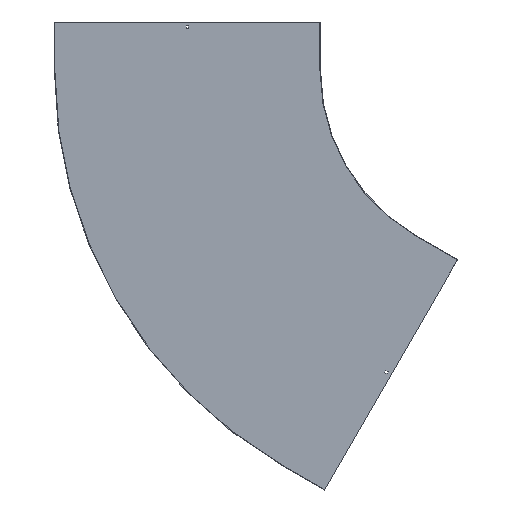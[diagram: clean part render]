
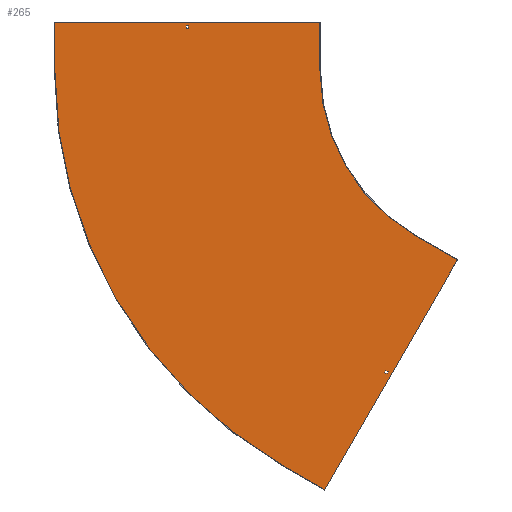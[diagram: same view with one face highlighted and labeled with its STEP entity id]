
A CAD part, front view. The second image highlights one B-rep face of the part: STEP entity #265.
In plain terms, the highlighted planar face has unit normal (0, -1, 0).
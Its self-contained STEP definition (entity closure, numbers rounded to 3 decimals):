
#2 = CARTESIAN_POINT ( 'NONE',  ( -575.096, -1.5, -1296.096 ) ) ;
#5 = DIRECTION ( 'NONE',  ( 0., 0., -1. ) ) ;
#19 = LINE ( 'NONE', #293, #61 ) ;
#24 = DIRECTION ( 'NONE',  ( -0.5, 0., -0.866 ) ) ;
#29 = CARTESIAN_POINT ( 'NONE',  ( -996.75, -1.5, 129. ) ) ;
#37 = LINE ( 'NONE', #696, #603 ) ;
#42 = LINE ( 'NONE', #580, #852 ) ;
#58 = CARTESIAN_POINT ( 'NONE',  ( -590., -1.5, 150. ) ) ;
#61 = VECTOR ( 'NONE', #804, 1000. ) ;
#62 = CIRCLE ( 'NONE', #189, 1410. ) ;
#63 = CIRCLE ( 'NONE', #340, 590. ) ;
#64 = VECTOR ( 'NONE', #150, 1000. ) ;
#67 = ORIENTED_EDGE ( 'NONE', *, *, #343, .F. ) ;
#73 = ORIENTED_EDGE ( 'NONE', *, *, #800, .F. ) ;
#81 = ORIENTED_EDGE ( 'NONE', *, *, #253, .F. ) ;
#83 = CARTESIAN_POINT ( 'NONE',  ( -501.625, -1.5, -868.84 ) ) ;
#104 = CARTESIAN_POINT ( 'NONE',  ( 119.512, -1.5, -69. ) ) ;
#106 = DIRECTION ( 'NONE',  ( 0., 0., -1. ) ) ;
#107 = EDGE_CURVE ( 'NONE', #627, #814, #63, .T. ) ;
#109 = AXIS2_PLACEMENT_3D ( 'NONE', #123, #392, #5 ) ;
#110 = VERTEX_POINT ( 'NONE', #770 ) ;
#113 = VECTOR ( 'NONE', #167, 1000. ) ;
#114 = EDGE_CURVE ( 'NONE', #581, #177, #845, .T. ) ;
#115 = EDGE_CURVE ( 'NONE', #158, #581, #42, .T. ) ;
#123 = CARTESIAN_POINT ( 'NONE',  ( 0., -1.5, 0. ) ) ;
#129 = DIRECTION ( 'NONE',  ( 0.866, 0., -0.5 ) ) ;
#135 = CARTESIAN_POINT ( 'NONE',  ( -575.096, -1.5, -1296.096 ) ) ;
#150 = DIRECTION ( 'NONE',  ( -0.866, 0., 0.5 ) ) ;
#158 = VERTEX_POINT ( 'NONE', #29 ) ;
#167 = DIRECTION ( 'NONE',  ( 0., 0., -1. ) ) ;
#172 = VERTEX_POINT ( 'NONE', #692 ) ;
#177 = VERTEX_POINT ( 'NONE', #379 ) ;
#178 = EDGE_CURVE ( 'NONE', #463, #110, #37, .T. ) ;
#187 = VERTEX_POINT ( 'NONE', #727 ) ;
#189 = AXIS2_PLACEMENT_3D ( 'NONE', #659, #850, #714 ) ;
#192 = VERTEX_POINT ( 'NONE', #854 ) ;
#198 = FACE_BOUND ( 'NONE', #274, .T. ) ;
#199 = EDGE_LOOP ( 'NONE', ( #73, #639, #268, #305, #440, #697, #844, #81 ) ) ;
#201 = FACE_BOUND ( 'NONE', #732, .T. ) ;
#205 = EDGE_CURVE ( 'NONE', #814, #172, #388, .T. ) ;
#207 = LINE ( 'NONE', #58, #721 ) ;
#214 = CARTESIAN_POINT ( 'NONE',  ( -590., -1.5, 0. ) ) ;
#234 = LINE ( 'NONE', #104, #254 ) ;
#253 = EDGE_CURVE ( 'NONE', #187, #627, #207, .T. ) ;
#254 = VECTOR ( 'NONE', #758, 1000. ) ;
#258 = ORIENTED_EDGE ( 'NONE', *, *, #851, .T. ) ;
#265 = ADVANCED_FACE ( 'NONE', ( #201, #595, #198 ), #457, .T. ) ;
#268 = ORIENTED_EDGE ( 'NONE', *, *, #735, .F. ) ;
#274 = EDGE_LOOP ( 'NONE', ( #258, #543, #353, #806 ) ) ;
#275 = LINE ( 'NONE', #2, #601 ) ;
#277 = LINE ( 'NONE', #83, #352 ) ;
#292 = CARTESIAN_POINT ( 'NONE',  ( -378.863, -1.5, -932.211 ) ) ;
#293 = CARTESIAN_POINT ( 'NONE',  ( 111.717, -1.5, -64.5 ) ) ;
#305 = ORIENTED_EDGE ( 'NONE', *, *, #730, .F. ) ;
#307 = CARTESIAN_POINT ( 'NONE',  ( -1410., -1.5, 0. ) ) ;
#309 = DIRECTION ( 'NONE',  ( 0., 0., 1. ) ) ;
#311 = VECTOR ( 'NONE', #334, 1000. ) ;
#312 = DIRECTION ( 'NONE',  ( 0., -1., 0. ) ) ;
#316 = ORIENTED_EDGE ( 'NONE', *, *, #857, .F. ) ;
#334 = DIRECTION ( 'NONE',  ( 1., 0., 0. ) ) ;
#340 = AXIS2_PLACEMENT_3D ( 'NONE', #450, #312, #106 ) ;
#343 = EDGE_CURVE ( 'NONE', #795, #752, #277, .T. ) ;
#351 = DIRECTION ( 'NONE',  ( 1., 0., 0. ) ) ;
#352 = VECTOR ( 'NONE', #354, 1000. ) ;
#353 = ORIENTED_EDGE ( 'NONE', *, *, #115, .T. ) ;
#354 = DIRECTION ( 'NONE',  ( 0.866, 0., -0.5 ) ) ;
#363 = EDGE_CURVE ( 'NONE', #192, #795, #19, .T. ) ;
#376 = CARTESIAN_POINT ( 'NONE',  ( -164.346, -1.5, -584.656 ) ) ;
#377 = CARTESIAN_POINT ( 'NONE',  ( -1003.25, -1.5, 0. ) ) ;
#379 = CARTESIAN_POINT ( 'NONE',  ( -1003.25, -1.5, 138. ) ) ;
#388 = LINE ( 'NONE', #847, #448 ) ;
#390 = CARTESIAN_POINT ( 'NONE',  ( -382.113, -1.5, -937.84 ) ) ;
#392 = DIRECTION ( 'NONE',  ( 0., -1., 0. ) ) ;
#403 = VECTOR ( 'NONE', #24, 1000. ) ;
#407 = VECTOR ( 'NONE', #570, 1000. ) ;
#412 = EDGE_CURVE ( 'NONE', #752, #862, #234, .T. ) ;
#440 = ORIENTED_EDGE ( 'NONE', *, *, #539, .F. ) ;
#448 = VECTOR ( 'NONE', #129, 1000. ) ;
#450 = CARTESIAN_POINT ( 'NONE',  ( 0., -1.5, 0. ) ) ;
#454 = CARTESIAN_POINT ( 'NONE',  ( -1411.5, -1.5, 150. ) ) ;
#457 = PLANE ( 'NONE',  #109 ) ;
#459 = CARTESIAN_POINT ( 'NONE',  ( -295., -1.5, -510.955 ) ) ;
#463 = VERTEX_POINT ( 'NONE', #307 ) ;
#465 = CARTESIAN_POINT ( 'NONE',  ( -389.908, -1.5, -933.34 ) ) ;
#486 = CARTESIAN_POINT ( 'NONE',  ( -498.375, -1.5, -863.211 ) ) ;
#494 = CARTESIAN_POINT ( 'NONE',  ( -1003.25, -1.5, 129. ) ) ;
#496 = LINE ( 'NONE', #759, #113 ) ;
#509 = CARTESIAN_POINT ( 'NONE',  ( -996.75, -1.5, 138. ) ) ;
#512 = VERTEX_POINT ( 'NONE', #509 ) ;
#522 = ORIENTED_EDGE ( 'NONE', *, *, #412, .F. ) ;
#539 = EDGE_CURVE ( 'NONE', #172, #767, #693, .T. ) ;
#543 = ORIENTED_EDGE ( 'NONE', *, *, #716, .T. ) ;
#555 = CARTESIAN_POINT ( 'NONE',  ( 0., -1.5, 138. ) ) ;
#570 = DIRECTION ( 'NONE',  ( 0., 0., 1. ) ) ;
#580 = CARTESIAN_POINT ( 'NONE',  ( 0., -1.5, 129. ) ) ;
#581 = VERTEX_POINT ( 'NONE', #494 ) ;
#595 = FACE_OUTER_BOUND ( 'NONE', #199, .T. ) ;
#601 = VECTOR ( 'NONE', #786, 1000. ) ;
#603 = VECTOR ( 'NONE', #309, 1000. ) ;
#627 = VERTEX_POINT ( 'NONE', #214 ) ;
#639 = ORIENTED_EDGE ( 'NONE', *, *, #178, .F. ) ;
#657 = LINE ( 'NONE', #454, #311 ) ;
#659 = CARTESIAN_POINT ( 'NONE',  ( 0., -1.5, 0. ) ) ;
#692 = CARTESIAN_POINT ( 'NONE',  ( -165.096, -1.5, -585.955 ) ) ;
#693 = LINE ( 'NONE', #376, #403 ) ;
#696 = CARTESIAN_POINT ( 'NONE',  ( -1410., -1.5, 0. ) ) ;
#697 = ORIENTED_EDGE ( 'NONE', *, *, #205, .F. ) ;
#703 = DIRECTION ( 'NONE',  ( -1., 0., 0. ) ) ;
#712 = DIRECTION ( 'NONE',  ( 0., 0., -1. ) ) ;
#714 = DIRECTION ( 'NONE',  ( 0., 0., -1. ) ) ;
#716 = EDGE_CURVE ( 'NONE', #512, #158, #496, .T. ) ;
#720 = CARTESIAN_POINT ( 'NONE',  ( -705., -1.5, -1221.096 ) ) ;
#721 = VECTOR ( 'NONE', #712, 1000. ) ;
#727 = CARTESIAN_POINT ( 'NONE',  ( -590., -1.5, 150. ) ) ;
#730 = EDGE_CURVE ( 'NONE', #767, #764, #275, .T. ) ;
#732 = EDGE_LOOP ( 'NONE', ( #316, #522, #67, #744 ) ) ;
#735 = EDGE_CURVE ( 'NONE', #764, #463, #62, .T. ) ;
#744 = ORIENTED_EDGE ( 'NONE', *, *, #363, .F. ) ;
#752 = VERTEX_POINT ( 'NONE', #390 ) ;
#758 = DIRECTION ( 'NONE',  ( 0.5, 0., 0.866 ) ) ;
#759 = CARTESIAN_POINT ( 'NONE',  ( -996.75, -1.5, 0. ) ) ;
#764 = VERTEX_POINT ( 'NONE', #720 ) ;
#766 = VECTOR ( 'NONE', #351, 1000. ) ;
#767 = VERTEX_POINT ( 'NONE', #135 ) ;
#770 = CARTESIAN_POINT ( 'NONE',  ( -1410., -1.5, 150. ) ) ;
#786 = DIRECTION ( 'NONE',  ( -0.866, 0., 0.5 ) ) ;
#795 = VERTEX_POINT ( 'NONE', #465 ) ;
#800 = EDGE_CURVE ( 'NONE', #110, #187, #657, .T. ) ;
#804 = DIRECTION ( 'NONE',  ( -0.5, 0., -0.866 ) ) ;
#806 = ORIENTED_EDGE ( 'NONE', *, *, #114, .T. ) ;
#814 = VERTEX_POINT ( 'NONE', #459 ) ;
#817 = LINE ( 'NONE', #555, #766 ) ;
#826 = LINE ( 'NONE', #486, #64 ) ;
#844 = ORIENTED_EDGE ( 'NONE', *, *, #107, .F. ) ;
#845 = LINE ( 'NONE', #377, #407 ) ;
#847 = CARTESIAN_POINT ( 'NONE',  ( -295., -1.5, -510.955 ) ) ;
#850 = DIRECTION ( 'NONE',  ( 0., 1., 0. ) ) ;
#851 = EDGE_CURVE ( 'NONE', #177, #512, #817, .T. ) ;
#852 = VECTOR ( 'NONE', #703, 1000. ) ;
#854 = CARTESIAN_POINT ( 'NONE',  ( -386.658, -1.5, -927.711 ) ) ;
#857 = EDGE_CURVE ( 'NONE', #862, #192, #826, .T. ) ;
#862 = VERTEX_POINT ( 'NONE', #292 ) ;
